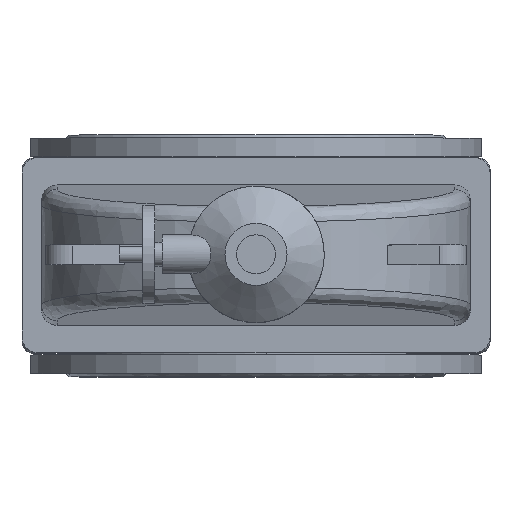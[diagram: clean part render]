
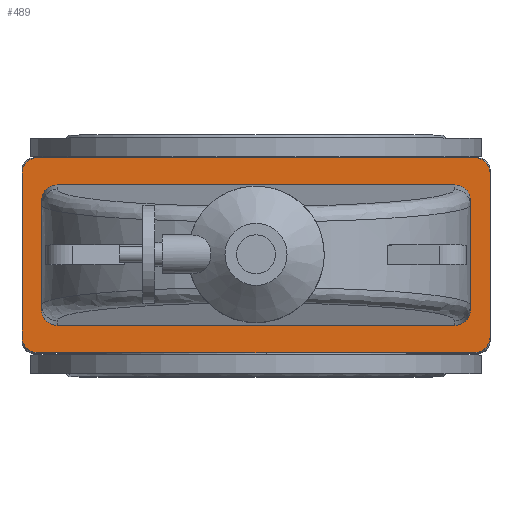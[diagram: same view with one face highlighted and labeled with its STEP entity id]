
A CAD part, top view. The second image highlights one B-rep face of the part: STEP entity #489.
In plain terms, the highlighted planar face has unit normal (0, 0, 1).
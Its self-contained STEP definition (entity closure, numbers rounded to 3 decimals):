
#489=ADVANCED_FACE('',(#4092,#4094),#4096,.T.);
#4092=FACE_BOUND('',#4093,.T.);
#4093=EDGE_LOOP('',(#7750,#7751,#7752,#7753,#7754,#7755,#7756,#7757));
#4094=FACE_BOUND('',#4095,.T.);
#4095=EDGE_LOOP('',(#7758,#7759,#7760,#7761,#7762,#7763,#7764,#7765));
#4096=PLANE('',#4097);
#4097=AXIS2_PLACEMENT_3D('',#4098,#4099,#4100);
#4098=CARTESIAN_POINT('',(0.,0.,636.));
#4099=DIRECTION('',(0.,-0.,1.));
#4100=DIRECTION('',(0.,1.,0.));
#7750=ORIENTED_EDGE('',*,*,#9554,.F.);
#7751=ORIENTED_EDGE('',*,*,#9555,.T.);
#7752=ORIENTED_EDGE('',*,*,#9556,.F.);
#7753=ORIENTED_EDGE('',*,*,#9557,.T.);
#7754=ORIENTED_EDGE('',*,*,#9558,.F.);
#7755=ORIENTED_EDGE('',*,*,#9559,.T.);
#7756=ORIENTED_EDGE('',*,*,#9560,.F.);
#7757=ORIENTED_EDGE('',*,*,#9561,.T.);
#7758=ORIENTED_EDGE('',*,*,#9533,.F.);
#7759=ORIENTED_EDGE('',*,*,#9532,.F.);
#7760=ORIENTED_EDGE('',*,*,#9530,.F.);
#7761=ORIENTED_EDGE('',*,*,#9518,.F.);
#7762=ORIENTED_EDGE('',*,*,#9551,.F.);
#7763=ORIENTED_EDGE('',*,*,#9549,.F.);
#7764=ORIENTED_EDGE('',*,*,#9547,.F.);
#7765=ORIENTED_EDGE('',*,*,#9535,.F.);
#9518=EDGE_CURVE('',#10507,#10505,#10509,.T.);
#9530=EDGE_CURVE('',#10505,#10526,#10528,.T.);
#9532=EDGE_CURVE('',#10526,#10529,#10531,.T.);
#9533=EDGE_CURVE('',#10529,#10532,#10533,.F.);
#9535=EDGE_CURVE('',#10532,#10535,#10536,.T.);
#9547=EDGE_CURVE('',#10535,#10554,#10555,.T.);
#9549=EDGE_CURVE('',#10554,#10557,#10558,.T.);
#9551=EDGE_CURVE('',#10557,#10507,#10560,.F.);
#9554=EDGE_CURVE('',#10565,#10566,#10567,.F.);
#9555=EDGE_CURVE('',#10565,#10568,#10569,.T.);
#9556=EDGE_CURVE('',#10570,#10568,#10571,.F.);
#9557=EDGE_CURVE('',#10570,#10572,#10573,.T.);
#9558=EDGE_CURVE('',#10574,#10572,#10575,.F.);
#9559=EDGE_CURVE('',#10574,#10576,#10577,.T.);
#9560=EDGE_CURVE('',#10578,#10576,#10579,.F.);
#9561=EDGE_CURVE('',#10578,#10566,#10580,.T.);
#10505=VERTEX_POINT('',#12726);
#10507=VERTEX_POINT('',#12730);
#10509=LINE('',#12734,#12735);
#10526=VERTEX_POINT('',#12777);
#10528=(BOUNDED_CURVE()B_SPLINE_CURVE(3,
(#12781,#12782,#12783,#12784),
.UNSPECIFIED.,.F.,.F.)B_SPLINE_CURVE_WITH_KNOTS((4,4),
(0.,1.),
.UNSPECIFIED.)CURVE()GEOMETRIC_REPRESENTATION_ITEM()RATIONAL_B_SPLINE_CURVE((1.,
0.805,0.805,1.))REPRESENTATION_ITEM(''));
#10529=VERTEX_POINT('',#12785);
#10531=LINE('',#12789,#12790);
#10532=VERTEX_POINT('',#12792);
#10533=(BOUNDED_CURVE()B_SPLINE_CURVE(3,
(#12793,#12794,#12795,#12796),
.UNSPECIFIED.,.F.,.F.)B_SPLINE_CURVE_WITH_KNOTS((4,4),
(0.,1.),
.UNSPECIFIED.)CURVE()GEOMETRIC_REPRESENTATION_ITEM()RATIONAL_B_SPLINE_CURVE((1.,
0.805,0.805,1.))REPRESENTATION_ITEM(''));
#10535=VERTEX_POINT('',#12800);
#10536=LINE('',#12801,#12802);
#10554=VERTEX_POINT('',#12847);
#10555=(BOUNDED_CURVE()B_SPLINE_CURVE(3,
(#12848,#12849,#12850,#12851),
.UNSPECIFIED.,.F.,.F.)B_SPLINE_CURVE_WITH_KNOTS((4,4),
(0.,1.),
.UNSPECIFIED.)CURVE()GEOMETRIC_REPRESENTATION_ITEM()RATIONAL_B_SPLINE_CURVE((1.,
0.805,0.805,1.))REPRESENTATION_ITEM(''));
#10557=VERTEX_POINT('',#12855);
#10558=LINE('',#12856,#12857);
#10560=(BOUNDED_CURVE()B_SPLINE_CURVE(3,
(#12862,#12863,#12864,#12865),
.UNSPECIFIED.,.F.,.F.)B_SPLINE_CURVE_WITH_KNOTS((4,4),
(0.,1.),
.UNSPECIFIED.)CURVE()GEOMETRIC_REPRESENTATION_ITEM()RATIONAL_B_SPLINE_CURVE((1.,
0.805,0.805,1.))REPRESENTATION_ITEM(''));
#10565=VERTEX_POINT('',#12876);
#10566=VERTEX_POINT('',#12877);
#10567=CIRCLE('',#12878,20.);
#10568=VERTEX_POINT('',#12882);
#10569=LINE('',#12883,#12884);
#10570=VERTEX_POINT('',#12886);
#10571=CIRCLE('',#12887,20.);
#10572=VERTEX_POINT('',#12891);
#10573=LINE('',#12892,#12893);
#10574=VERTEX_POINT('',#12895);
#10575=CIRCLE('',#12896,20.);
#10576=VERTEX_POINT('',#12900);
#10577=LINE('',#12901,#12902);
#10578=VERTEX_POINT('',#12904);
#10579=CIRCLE('',#12905,20.);
#10580=LINE('',#12909,#12910);
#12726=CARTESIAN_POINT('',(-275.,-69.924,636.));
#12730=CARTESIAN_POINT('',(-275.,69.924,636.));
#12734=CARTESIAN_POINT('',(-275.,69.924,636.));
#12735=VECTOR('',#12736,1.);
#12736=DIRECTION('',(0.,-1.,0.));
#12777=CARTESIAN_POINT('',(-255.,-90.,636.));
#12781=CARTESIAN_POINT('',(-275.,-69.924,636.));
#12782=CARTESIAN_POINT('',(-275.,-81.684,636.));
#12783=CARTESIAN_POINT('',(-266.716,-90.,636.));
#12784=CARTESIAN_POINT('',(-255.,-90.,636.));
#12785=CARTESIAN_POINT('',(255.,-90.,636.));
#12789=CARTESIAN_POINT('',(-255.,-90.,636.));
#12790=VECTOR('',#12791,1.);
#12791=DIRECTION('',(1.,0.,0.));
#12792=CARTESIAN_POINT('',(275.,-69.924,636.));
#12793=CARTESIAN_POINT('',(275.,-69.924,636.));
#12794=CARTESIAN_POINT('',(275.,-81.684,636.));
#12795=CARTESIAN_POINT('',(266.716,-90.,636.));
#12796=CARTESIAN_POINT('',(255.,-90.,636.));
#12800=CARTESIAN_POINT('',(275.,69.924,636.));
#12801=CARTESIAN_POINT('',(275.,-69.924,636.));
#12802=VECTOR('',#12803,1.);
#12803=DIRECTION('',(0.,1.,0.));
#12847=CARTESIAN_POINT('',(255.,90.,636.));
#12848=CARTESIAN_POINT('',(275.,69.924,636.));
#12849=CARTESIAN_POINT('',(275.,81.684,636.));
#12850=CARTESIAN_POINT('',(266.716,90.,636.));
#12851=CARTESIAN_POINT('',(255.,90.,636.));
#12855=CARTESIAN_POINT('',(-255.,90.,636.));
#12856=CARTESIAN_POINT('',(255.,90.,636.));
#12857=VECTOR('',#12858,1.);
#12858=DIRECTION('',(-1.,0.,0.));
#12862=CARTESIAN_POINT('',(-275.,69.924,636.));
#12863=CARTESIAN_POINT('',(-275.,81.684,636.));
#12864=CARTESIAN_POINT('',(-266.716,90.,636.));
#12865=CARTESIAN_POINT('',(-255.,90.,636.));
#12876=CARTESIAN_POINT('',(-280.,-125.,636.));
#12877=CARTESIAN_POINT('',(-300.,-105.,636.));
#12878=AXIS2_PLACEMENT_3D('',#12879,#12880,#12881);
#12879=CARTESIAN_POINT('',(-280.,-105.,636.));
#12880=DIRECTION('',(0.,-0.,1.));
#12881=DIRECTION('',(-1.,0.,0.));
#12882=CARTESIAN_POINT('',(280.,-125.,636.));
#12883=CARTESIAN_POINT('',(-280.,-125.,636.));
#12884=VECTOR('',#12885,1.);
#12885=DIRECTION('',(1.,0.,0.));
#12886=CARTESIAN_POINT('',(300.,-105.,636.));
#12887=AXIS2_PLACEMENT_3D('',#12888,#12889,#12890);
#12888=CARTESIAN_POINT('',(280.,-105.,636.));
#12889=DIRECTION('',(0.,-0.,1.));
#12890=DIRECTION('',(0.,-1.,0.));
#12891=CARTESIAN_POINT('',(300.,105.,636.));
#12892=CARTESIAN_POINT('',(300.,-105.,636.));
#12893=VECTOR('',#12894,1.);
#12894=DIRECTION('',(0.,1.,0.));
#12895=CARTESIAN_POINT('',(280.,125.,636.));
#12896=AXIS2_PLACEMENT_3D('',#12897,#12898,#12899);
#12897=CARTESIAN_POINT('',(280.,105.,636.));
#12898=DIRECTION('',(0.,-0.,1.));
#12899=DIRECTION('',(1.,0.,0.));
#12900=CARTESIAN_POINT('',(-280.,125.,636.));
#12901=CARTESIAN_POINT('',(280.,125.,636.));
#12902=VECTOR('',#12903,1.);
#12903=DIRECTION('',(-1.,0.,0.));
#12904=CARTESIAN_POINT('',(-300.,105.,636.));
#12905=AXIS2_PLACEMENT_3D('',#12906,#12907,#12908);
#12906=CARTESIAN_POINT('',(-280.,105.,636.));
#12907=DIRECTION('',(0.,-0.,1.));
#12908=DIRECTION('',(0.,1.,0.));
#12909=CARTESIAN_POINT('',(-300.,105.,636.));
#12910=VECTOR('',#12911,1.);
#12911=DIRECTION('',(0.,-1.,0.));
